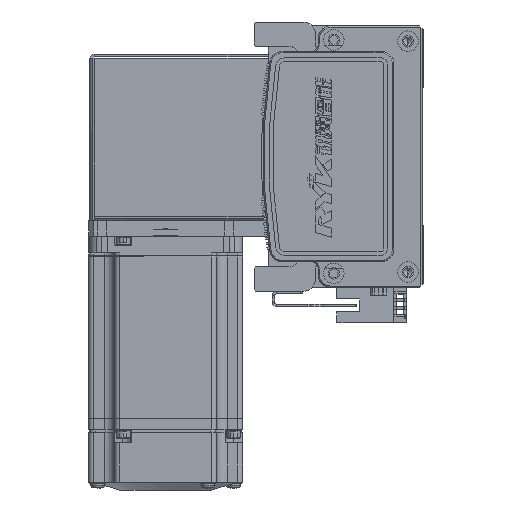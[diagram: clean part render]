
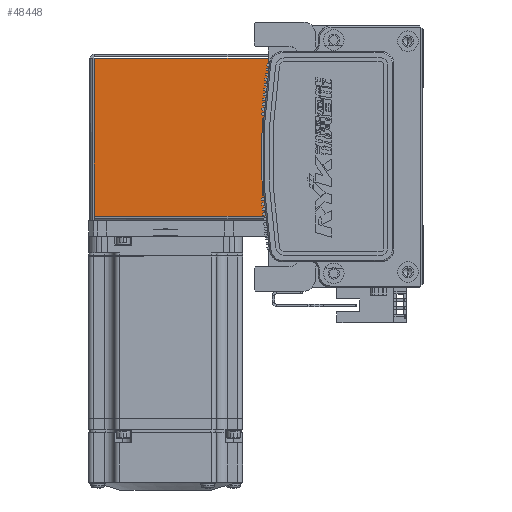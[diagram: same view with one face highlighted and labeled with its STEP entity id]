
A CAD part, left-side view. The second image highlights one B-rep face of the part: STEP entity #48448.
In plain terms, the highlighted planar face has unit normal (-1, 0, 0) as drawn and (0, 0, 1) by its records, which use the part's own axes.
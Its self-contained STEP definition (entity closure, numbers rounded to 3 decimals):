
#4233 = VERTEX_POINT ( 'NONE', #65554 ) ;
#4969 = ORIENTED_EDGE ( 'NONE', *, *, #38403, .F. ) ;
#7605 = LINE ( 'NONE', #14687, #49507 ) ;
#7834 = LINE ( 'NONE', #65837, #59186 ) ;
#10506 = VERTEX_POINT ( 'NONE', #33329 ) ;
#10574 = CARTESIAN_POINT ( 'NONE',  ( 0., 0., 35. ) ) ;
#12604 = FACE_OUTER_BOUND ( 'NONE', #62419, .T. ) ;
#12689 = ORIENTED_EDGE ( 'NONE', *, *, #50912, .T. ) ;
#14687 = CARTESIAN_POINT ( 'NONE',  ( -32.5, 0.737, 35. ) ) ;
#17428 = VERTEX_POINT ( 'NONE', #31780 ) ;
#21682 = CARTESIAN_POINT ( 'NONE',  ( 30.763, 0.737, 35. ) ) ;
#30535 = ORIENTED_EDGE ( 'NONE', *, *, #62094, .T. ) ;
#30979 = VERTEX_POINT ( 'NONE', #53213 ) ;
#31780 = CARTESIAN_POINT ( 'NONE',  ( 30.763, 0.737, 35. ) ) ;
#32161 = CARTESIAN_POINT ( 'NONE',  ( 0., 68.5, 35. ) ) ;
#33329 = CARTESIAN_POINT ( 'NONE',  ( -30.793, 68.5, 35. ) ) ;
#38403 = EDGE_CURVE ( 'NONE', #4233, #10506, #7834, .T. ) ;
#43247 = PLANE ( 'NONE',  #56020 ) ;
#47989 = LINE ( 'NONE', #32161, #50604 ) ;
#48448 = ADVANCED_FACE ( 'NONE', ( #12604 ), #43247, .F. ) ;
#48753 = DIRECTION ( 'NONE',  ( 0., 0., -1. ) ) ;
#48815 = DIRECTION ( 'NONE',  ( 0., 1., 0. ) ) ;
#49460 = VECTOR ( 'NONE', #60703, 1000. ) ;
#49473 = DIRECTION ( 'NONE',  ( -1., 0., 0. ) ) ;
#49507 = VECTOR ( 'NONE', #58932, 1000. ) ;
#50604 = VECTOR ( 'NONE', #65470, 1000. ) ;
#50912 = EDGE_CURVE ( 'NONE', #30979, #10506, #47989, .T. ) ;
#53213 = CARTESIAN_POINT ( 'NONE',  ( 30.763, 68.5, 35. ) ) ;
#55736 = EDGE_CURVE ( 'NONE', #17428, #4233, #7605, .T. ) ;
#56020 = AXIS2_PLACEMENT_3D ( 'NONE', #10574, #48753, #49473 ) ;
#58932 = DIRECTION ( 'NONE',  ( -1., 0., 0. ) ) ;
#59186 = VECTOR ( 'NONE', #48815, 1000. ) ;
#60703 = DIRECTION ( 'NONE',  ( 0., 1., 0. ) ) ;
#62094 = EDGE_CURVE ( 'NONE', #17428, #30979, #69220, .T. ) ;
#62419 = EDGE_LOOP ( 'NONE', ( #30535, #12689, #4969, #67673 ) ) ;
#65470 = DIRECTION ( 'NONE',  ( -1., 0., 0. ) ) ;
#65554 = CARTESIAN_POINT ( 'NONE',  ( -30.793, 0.737, 35. ) ) ;
#65837 = CARTESIAN_POINT ( 'NONE',  ( -30.793, 0., 35. ) ) ;
#67673 = ORIENTED_EDGE ( 'NONE', *, *, #55736, .F. ) ;
#69220 = LINE ( 'NONE', #21682, #49460 ) ;
